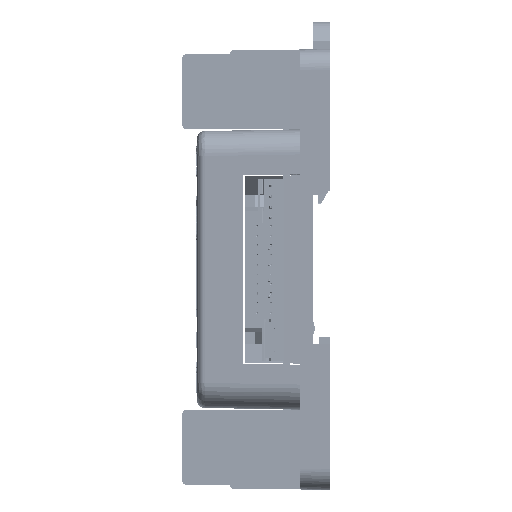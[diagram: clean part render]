
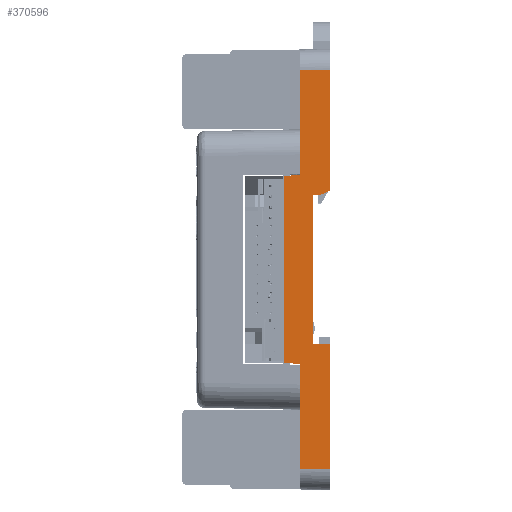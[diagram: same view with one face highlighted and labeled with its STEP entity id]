
A CAD part, left-side view. The second image highlights one B-rep face of the part: STEP entity #370596.
In plain terms, the highlighted planar face has unit normal (-1, 0.018, 0).
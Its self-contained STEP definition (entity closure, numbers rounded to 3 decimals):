
#10107 = CARTESIAN_POINT ( 'NONE',  ( -101.078, -9.971, 70.248 ) ) ;
#14472 = VERTEX_POINT ( 'NONE', #219018 ) ;
#15804 = DIRECTION ( 'NONE',  ( -0.016, -0.923, 0.385 ) ) ;
#19135 = CARTESIAN_POINT ( 'NONE',  ( -101.099, -11.2, -0.2 ) ) ;
#19946 = CARTESIAN_POINT ( 'NONE',  ( -100.977, -4.2, 75. ) ) ;
#25130 = VECTOR ( 'NONE', #325932, 1000. ) ;
#34274 = VERTEX_POINT ( 'NONE', #236233 ) ;
#36915 = ORIENTED_EDGE ( 'NONE', *, *, #240586, .T. ) ;
#50442 = DIRECTION ( 'NONE',  ( -0.017, -1., 0. ) ) ;
#58485 = EDGE_CURVE ( 'NONE', #277004, #333553, #220221, .T. ) ;
#58735 = DIRECTION ( 'NONE',  ( 0., 0., 1. ) ) ;
#61004 = VECTOR ( 'NONE', #197476, 1000. ) ;
#69744 = VERTEX_POINT ( 'NONE', #76239 ) ;
#72137 = LINE ( 'NONE', #203951, #218576 ) ;
#76239 = CARTESIAN_POINT ( 'NONE',  ( -101.099, -11.2, 100.201 ) ) ;
#82353 = ORIENTED_EDGE ( 'NONE', *, *, #338634, .F. ) ;
#88358 = ORIENTED_EDGE ( 'NONE', *, *, #296666, .T. ) ;
#88779 = EDGE_CURVE ( 'NONE', #69744, #330722, #72137, .T. ) ;
#90256 = CARTESIAN_POINT ( 'NONE',  ( -101.099, -11.2, 34.73 ) ) ;
#90671 = LINE ( 'NONE', #325982, #163805 ) ;
#109995 = DIRECTION ( 'NONE',  ( 0.017, 1., -0.017 ) ) ;
#113263 = ORIENTED_EDGE ( 'NONE', *, *, #123957, .T. ) ;
#120008 = LINE ( 'NONE', #126995, #359066 ) ;
#120835 = VECTOR ( 'NONE', #388999, 1000. ) ;
#121486 = ORIENTED_EDGE ( 'NONE', *, *, #329695, .T. ) ;
#123957 = EDGE_CURVE ( 'NONE', #208976, #236112, #154574, .T. ) ;
#126995 = CARTESIAN_POINT ( 'NONE',  ( -100.977, -4.2, -0.2 ) ) ;
#135387 = CARTESIAN_POINT ( 'NONE',  ( -101.099, -11.2, 4.799 ) ) ;
#136927 = DIRECTION ( 'NONE',  ( 0.017, 1., -0.017 ) ) ;
#137551 = EDGE_CURVE ( 'NONE', #333553, #330722, #120008, .T. ) ;
#139136 = CARTESIAN_POINT ( 'NONE',  ( -101.11, -11.809, 34.72 ) ) ;
#153335 = VERTEX_POINT ( 'NONE', #183744 ) ;
#153559 = ORIENTED_EDGE ( 'NONE', *, *, #137551, .F. ) ;
#154574 = LINE ( 'NONE', #247837, #384011 ) ;
#156136 = ORIENTED_EDGE ( 'NONE', *, *, #204933, .F. ) ;
#158244 = DIRECTION ( 'NONE',  ( 0., 0., 1. ) ) ;
#163805 = VECTOR ( 'NONE', #357312, 1000. ) ;
#170710 = CARTESIAN_POINT ( 'NONE',  ( -101.099, -11.2, -0.2 ) ) ;
#172039 = AXIS2_PLACEMENT_3D ( 'NONE', #19135, #237247, #50442 ) ;
#175746 = VECTOR ( 'NONE', #375217, 1000. ) ;
#179062 = EDGE_CURVE ( 'NONE', #196278, #344876, #233431, .T. ) ;
#181053 = CARTESIAN_POINT ( 'NONE',  ( -101.055, -8.7, 70.226 ) ) ;
#183744 = CARTESIAN_POINT ( 'NONE',  ( -101.029, -7.2, 70.2 ) ) ;
#196278 = VERTEX_POINT ( 'NONE', #181053 ) ;
#197476 = DIRECTION ( 'NONE',  ( 0., 0., 1. ) ) ;
#200730 = LINE ( 'NONE', #139136, #25130 ) ;
#200917 = ORIENTED_EDGE ( 'NONE', *, *, #205252, .F. ) ;
#203951 = CARTESIAN_POINT ( 'NONE',  ( -101.068, -9.449, 100.17 ) ) ;
#204061 = ORIENTED_EDGE ( 'NONE', *, *, #266383, .F. ) ;
#204933 = EDGE_CURVE ( 'NONE', #350359, #277004, #310173, .T. ) ;
#205252 = EDGE_CURVE ( 'NONE', #14472, #375870, #392809, .T. ) ;
#208976 = VERTEX_POINT ( 'NONE', #135387 ) ;
#210479 = VECTOR ( 'NONE', #367555, 1000. ) ;
#214206 = CARTESIAN_POINT ( 'NONE',  ( -100.907, -0.2, 30. ) ) ;
#218576 = VECTOR ( 'NONE', #109995, 1000. ) ;
#219018 = CARTESIAN_POINT ( 'NONE',  ( -100.977, -4.2, 4.921 ) ) ;
#220221 = LINE ( 'NONE', #273565, #210479 ) ;
#225635 = LINE ( 'NONE', #10107, #298835 ) ;
#233431 = LINE ( 'NONE', #389412, #379717 ) ;
#236112 = VERTEX_POINT ( 'NONE', #90256 ) ;
#236233 = CARTESIAN_POINT ( 'NONE',  ( -101.029, -7.2, 34.8 ) ) ;
#237247 = DIRECTION ( 'NONE',  ( -1., 0.017, 0. ) ) ;
#240586 = EDGE_CURVE ( 'NONE', #14472, #208976, #258740, .T. ) ;
#243112 = LINE ( 'NONE', #300441, #316228 ) ;
#247837 = CARTESIAN_POINT ( 'NONE',  ( -101.099, -11.2, -0.2 ) ) ;
#254671 = ORIENTED_EDGE ( 'NONE', *, *, #58485, .F. ) ;
#254863 = CARTESIAN_POINT ( 'NONE',  ( -100.977, -4.2, 30. ) ) ;
#258740 = LINE ( 'NONE', #343843, #175746 ) ;
#266383 = EDGE_CURVE ( 'NONE', #34274, #236112, #200730, .T. ) ;
#267273 = PLANE ( 'NONE',  #172039 ) ;
#273565 = CARTESIAN_POINT ( 'NONE',  ( -100.977, -4.2, 75. ) ) ;
#277004 = VERTEX_POINT ( 'NONE', #380897 ) ;
#279202 = DIRECTION ( 'NONE',  ( 0., 0., 1. ) ) ;
#290285 = CARTESIAN_POINT ( 'NONE',  ( -100.977, -4.2, -0.2 ) ) ;
#296666 = EDGE_CURVE ( 'NONE', #350359, #375870, #243112, .T. ) ;
#298835 = VECTOR ( 'NONE', #136927, 1000. ) ;
#298859 = ORIENTED_EDGE ( 'NONE', *, *, #88779, .T. ) ;
#300441 = CARTESIAN_POINT ( 'NONE',  ( -100.977, -4.2, 30. ) ) ;
#307620 = CARTESIAN_POINT ( 'NONE',  ( -100.907, -0.2, 30.07 ) ) ;
#310173 = LINE ( 'NONE', #214206, #383461 ) ;
#316228 = VECTOR ( 'NONE', #363104, 1000. ) ;
#319226 = ORIENTED_EDGE ( 'NONE', *, *, #179062, .T. ) ;
#325932 = DIRECTION ( 'NONE',  ( -0.017, -1., -0.017 ) ) ;
#325982 = CARTESIAN_POINT ( 'NONE',  ( -101.029, -7.2, -0.2 ) ) ;
#329391 = EDGE_LOOP ( 'NONE', ( #82353, #319226, #121486, #298859, #153559, #254671, #156136, #88358, #200917, #36915, #113263, #204061, #349808 ) ) ;
#329695 = EDGE_CURVE ( 'NONE', #344876, #69744, #359869, .T. ) ;
#330722 = VERTEX_POINT ( 'NONE', #388198 ) ;
#333553 = VERTEX_POINT ( 'NONE', #19946 ) ;
#334833 = EDGE_CURVE ( 'NONE', #153335, #34274, #90671, .T. ) ;
#338634 = EDGE_CURVE ( 'NONE', #196278, #153335, #225635, .T. ) ;
#343843 = CARTESIAN_POINT ( 'NONE',  ( -101.101, -11.287, 4.798 ) ) ;
#344876 = VERTEX_POINT ( 'NONE', #347864 ) ;
#347864 = CARTESIAN_POINT ( 'NONE',  ( -101.099, -11.2, 71.27 ) ) ;
#349808 = ORIENTED_EDGE ( 'NONE', *, *, #334833, .F. ) ;
#350359 = VERTEX_POINT ( 'NONE', #307620 ) ;
#357312 = DIRECTION ( 'NONE',  ( 0., 0., -1. ) ) ;
#359066 = VECTOR ( 'NONE', #158244, 1000. ) ;
#359869 = LINE ( 'NONE', #170710, #120835 ) ;
#363104 = DIRECTION ( 'NONE',  ( -0.017, -1., -0.017 ) ) ;
#367555 = DIRECTION ( 'NONE',  ( -0.017, -1., 0.017 ) ) ;
#370596 = ADVANCED_FACE ( 'NONE', ( #382790 ), #267273, .T. ) ;
#375217 = DIRECTION ( 'NONE',  ( -0.017, -1., -0.017 ) ) ;
#375870 = VERTEX_POINT ( 'NONE', #254863 ) ;
#379717 = VECTOR ( 'NONE', #15804, 1000. ) ;
#380897 = CARTESIAN_POINT ( 'NONE',  ( -100.907, -0.2, 74.93 ) ) ;
#382790 = FACE_OUTER_BOUND ( 'NONE', #329391, .T. ) ;
#383461 = VECTOR ( 'NONE', #58735, 1000. ) ;
#384011 = VECTOR ( 'NONE', #279202, 1000. ) ;
#388198 = CARTESIAN_POINT ( 'NONE',  ( -100.977, -4.2, 100.079 ) ) ;
#388999 = DIRECTION ( 'NONE',  ( 0., 0., 1. ) ) ;
#389412 = CARTESIAN_POINT ( 'NONE',  ( -101.055, -8.686, 70.22 ) ) ;
#392809 = LINE ( 'NONE', #290285, #61004 ) ;
